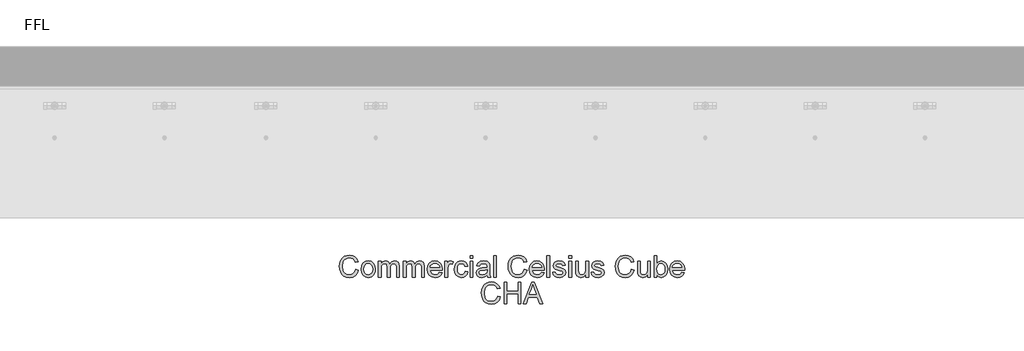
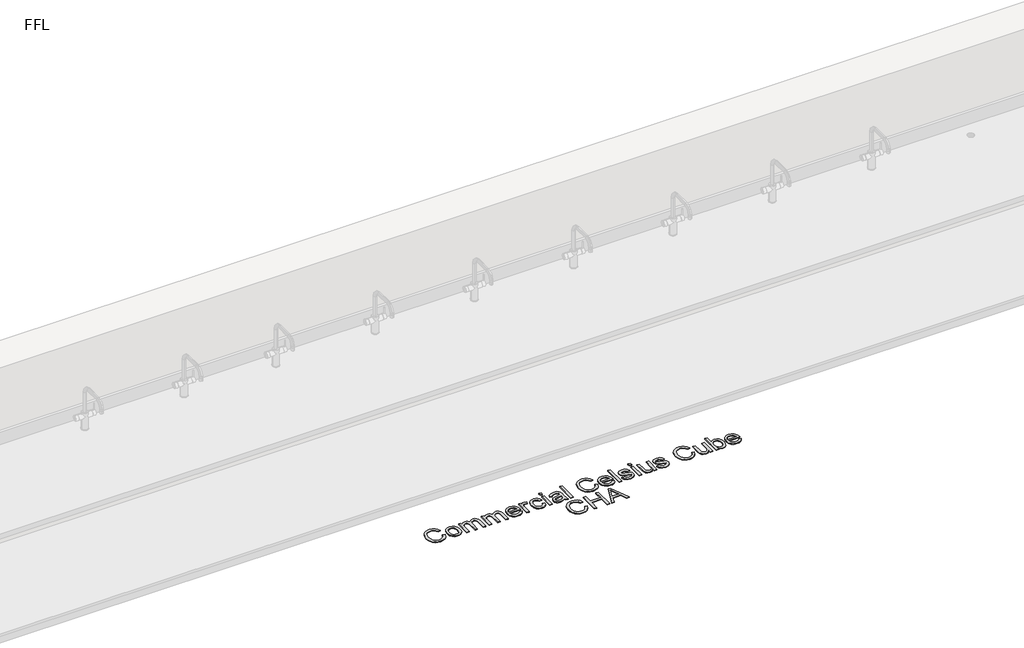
# One storey, part 5 of 10: 1 proxy.
"""IFC4 building model written with IfcOpenShell, lengths in millimetres."""

from ifc_helpers import new_model, si_unit, origin, origin_with_axes, place, context, project, spatial, polyline, outline, extrude, element, save

model = new_model("IFC4")

# Units and contexts
model_context = context("Model", 3, world=origin())
ifc_project = project(units=[si_unit("LENGTHUNIT", "METRE", prefix="MILLI")], contexts=[model_context])

# Site, building, storey
site = spatial("IfcSite", under=ifc_project)
building = spatial("IfcBuilding", under=site)
storey = spatial("IfcBuildingStorey", under=building, Name="FFL", Elevation=0.0)

# Proxy
placement = place(None, origin())
element("IfcBuildingElementProxy", 1, Name="150mm Arial", ObjectType="150mm Arial", at=placement, inside=storey, context=model_context, shape_type="SweptSolid", body=[
    extrude(outline(polyline([(-3409.7352929, -1683.6981691), (-3391.2737544, -1688.4577845), (-3399.7923842, -1709.9707052), (-3413.1607736, -1725.6873518), (-3430.7208698, -1735.301234), (-3451.8146198, -1738.5058614), (-3473.2283818, -1736.0809816), (-3490.2340909, -1728.8063422), (-3503.2689467, -1716.934347), (-3512.7701486, -1700.7173999), (-3518.5709299, -1681.6518951), (-3520.5045236, -1661.2342268), (-3518.318526, -1639.6987701), (-3511.7605333, -1621.1020153), (-3501.1730934, -1606.0344071), (-3486.8987544, -1595.0863903), (-3469.9696679, -1588.4202244), (-3451.4179852, -1586.1981691), (-3431.1760982, -1589.0737701), (-3414.4408217, -1597.700573), (-3401.7349924, -1611.5467268), (-3393.5814467, -1630.0803807), (-3412.0429852, -1634.4794191), (-3418.4432256, -1621.0163783), (-3427.1872159, -1611.7811018), (-3438.3831294, -1606.4400561), (-3452.139139, -1604.6597076), (-3467.9955092, -1606.6338662), (-3481.0213506, -1612.5563422), (-3490.9056655, -1621.8051403), (-3497.3374563, -1633.7582653), (-3502.0429852, -1661.1981691), (-3496.4720717, -1693.0010537), (-3489.3506775, -1704.8775561), (-3479.1283217, -1713.3195633), (-3466.8732135, -1718.3631331), (-3453.6535621, -1720.044323), (-3438.2434059, -1717.7546595), (-3425.4023602, -1710.8856691), (-3415.7073482, -1699.5094672), (-3409.7352929, -1683.6981691)])), origin_with_axes(), (0.0, 0.0, 1.0), 5.0),
    extrude(outline(polyline([(-3372.8122159, -1681.9673999), (-3368.8188265, -1655.8165585), (-3356.8386583, -1637.4361499), (-3342.0369756, -1628.4307412), (-3324.3146198, -1625.4289383), (-3304.9200885, -1629.0842869), (-3289.4288025, -1640.0503326), (-3279.2740549, -1657.4616908), (-3275.889139, -1680.4529768), (-3277.3855333, -1699.1038182), (-3281.8747159, -1713.3015345), (-3289.225978, -1723.9340465), (-3299.3086102, -1731.8892749), (-3311.2842712, -1736.8517148), (-3324.3146198, -1738.5058614), (-3343.943526, -1734.8640345), (-3359.4167833, -1723.9385537), (-3369.4633578, -1706.1621114), (-3372.8122159, -1681.9673999)]), holes=[polyline([(-3354.3506775, -1681.9313422), (-3352.2142592, -1698.6395754), (-3345.8050044, -1710.543121), (-3336.1595717, -1717.6690225), (-3324.3146198, -1720.044323), (-3312.5237544, -1717.6555008), (-3302.8963506, -1710.4890345), (-3296.4870958, -1698.4277364), (-3294.3506775, -1681.3544191), (-3296.5006174, -1665.1329648), (-3302.9504371, -1653.3916787), (-3312.5913626, -1646.2657773), (-3324.3146198, -1643.8904768), (-3336.1595717, -1646.2567629), (-3345.8050044, -1653.355621), (-3352.2142592, -1665.2321234), (-3354.3506775, -1681.9313422)])]), origin_with_axes(), (0.0, 0.0, 1.0), 5.0),
    extrude(outline(polyline([(-3255.1199083, -1736.1981691), (-3255.1199083, -1627.7366307), (-3236.6583698, -1627.7366307), (-3236.6583698, -1645.5851883), (-3223.9660621, -1630.9637941), (-3205.9011583, -1625.4289383), (-3195.6337304, -1626.8396956), (-3187.4035621, -1631.0719672), (-3177.2352929, -1646.8832653), (-3162.8302448, -1630.7925201), (-3144.639139, -1625.4289383), (-3130.7614347, -1627.6600081), (-3120.498514, -1634.3532172), (-3114.1568674, -1645.6888542), (-3112.0429852, -1661.8472076), (-3112.0429852, -1736.1981691), (-3130.5045236, -1736.1981691), (-3130.5045236, -1669.7798999), (-3132.217264, -1654.3652364), (-3138.4191871, -1646.7750922), (-3148.9660621, -1643.8904768), (-3158.9675645, -1645.7384335), (-3167.1211102, -1651.2823037), (-3172.5432857, -1660.9006932), (-3174.3506775, -1674.9722076), (-3174.3506775, -1736.1981691), (-3192.8122159, -1736.1981691), (-3192.8122159, -1667.7246114), (-3197.0850525, -1649.839996), (-3202.7235741, -1645.3778566), (-3211.0934659, -1643.8904768), (-3224.7593313, -1647.856823), (-3233.8458698, -1659.4673999), (-3236.6583698, -1681.4986499), (-3236.6583698, -1736.1981691), (-3255.1199083, -1736.1981691)])), origin_with_axes(), (0.0, 0.0, 1.0), 5.0),
    extrude(outline(polyline([(-3084.3506775, -1736.1981691), (-3084.3506775, -1627.7366307), (-3065.889139, -1627.7366307), (-3065.889139, -1645.5851883), (-3053.1968313, -1630.9637941), (-3035.1319275, -1625.4289383), (-3024.8644996, -1626.8396956), (-3016.6343313, -1631.0719672), (-3006.4660621, -1646.8832653), (-2992.061014, -1630.7925201), (-2973.8699083, -1625.4289383), (-2959.9922039, -1627.6600081), (-2949.7292833, -1634.3532172), (-2943.3876366, -1645.6888542), (-2941.2737544, -1661.8472076), (-2941.2737544, -1736.1981691), (-2959.7352929, -1736.1981691), (-2959.7352929, -1669.7798999), (-2961.4480333, -1654.3652364), (-2967.6499563, -1646.7750922), (-2978.1968313, -1643.8904768), (-2988.1983337, -1645.7384335), (-2996.3518794, -1651.2823037), (-3001.7740549, -1660.9006932), (-3003.5814467, -1674.9722076), (-3003.5814467, -1736.1981691), (-3022.0429852, -1736.1981691), (-3022.0429852, -1667.7246114), (-3026.3158217, -1649.839996), (-3031.9543434, -1645.3778566), (-3040.3242352, -1643.8904768), (-3053.9901006, -1647.856823), (-3063.076639, -1659.4673999), (-3065.889139, -1681.4986499), (-3065.889139, -1736.1981691), (-3084.3506775, -1736.1981691)])), origin_with_axes(), (0.0, 0.0, 1.0), 5.0),
    extrude(outline(polyline([(-2837.6439467, -1703.8904768), (-2819.5429852, -1706.1981691), (-2826.0649203, -1719.8369912), (-2836.4720717, -1730.0323037), (-2850.5300645, -1736.387472), (-2868.0045236, -1738.5058614), (-2889.6661823, -1734.8505129), (-2906.3338506, -1723.8844672), (-2916.9618554, -1706.3198638), (-2920.5045236, -1682.8688422), (-2916.9257977, -1658.6290585), (-2906.1896198, -1640.5010537), (-2889.7473121, -1629.1969672), (-2869.0501967, -1625.4289383), (-2848.9976126, -1629.1879528), (-2832.9744756, -1640.464996), (-2822.4681655, -1658.5569432), (-2818.9660621, -1682.7606691), (-2819.0742352, -1687.7366307), (-2902.0429852, -1687.7366307), (-2898.8473722, -1701.5557412), (-2891.4239948, -1711.714996), (-2880.710353, -1717.9619912), (-2867.6439467, -1720.044323), (-2849.5429852, -1716.1861499), (-2837.6439467, -1703.8904768)]), holes=[polyline([(-2902.0429852, -1669.2750922), (-2837.4276006, -1669.2750922), (-2839.9245958, -1659.5214864), (-2844.8194275, -1652.544323), (-2855.5826486, -1646.0539383), (-2869.1223121, -1643.8904768), (-2881.5667232, -1645.6167388), (-2891.8566871, -1650.7955249), (-2899.0096318, -1658.8679408), (-2902.0429852, -1669.2750922)])]), origin_with_axes(), (0.0, 0.0, 1.0), 5.0),
    extrude(outline(polyline([(-2800.5045236, -1736.1981691), (-2800.5045236, -1627.7366307), (-2784.3506775, -1627.7366307), (-2784.3506775, -1643.7823037), (-2772.8843313, -1628.9986499), (-2761.3458698, -1625.4289383), (-2742.8122159, -1631.1260537), (-2748.9780813, -1647.6765345), (-2761.9588506, -1643.8904768), (-2772.3975525, -1647.5323037), (-2779.0501967, -1657.6284576), (-2782.0429852, -1679.1909576), (-2782.0429852, -1736.1981691), (-2800.5045236, -1736.1981691)])), origin_with_axes(), (0.0, 0.0, 1.0), 5.0),
    extrude(outline(polyline([(-2662.0429852, -1696.9673999), (-2643.5814467, -1699.2750922), (-2648.7286823, -1715.6948638), (-2658.4011583, -1728.1032172), (-2671.6884179, -1735.9052004), (-2687.6800044, -1738.5058614), (-2707.3179251, -1734.8775561), (-2722.6739948, -1723.9926403), (-2732.585353, -1706.3288783), (-2735.889139, -1682.3640345), (-2730.2461102, -1651.6969672), (-2723.1247159, -1640.1990706), (-2713.0465909, -1631.9914383), (-2700.9898001, -1627.0695633), (-2687.9324083, -1625.4289383), (-2672.3329491, -1627.6825441), (-2659.8614948, -1634.4433614), (-2650.9146799, -1645.3508133), (-2645.889139, -1660.044323), (-2664.3506775, -1662.3520153), (-2672.9143794, -1648.5238903), (-2687.7881775, -1643.8904768), (-2699.7187664, -1646.1711258), (-2709.1884179, -1653.013073), (-2715.3678049, -1664.7859095), (-2717.4276006, -1681.8592268), (-2715.412877, -1699.1624119), (-2709.3687063, -1710.9758133), (-2700.0703289, -1717.7771956), (-2688.2929852, -1720.044323), (-2678.7331895, -1718.6290585), (-2670.8951486, -1714.3832653), (-2665.193526, -1707.1987701), (-2662.0429852, -1696.9673999)])), origin_with_axes(), (0.0, 0.0, 1.0), 5.0),
    extrude(outline(polyline([(-2627.4276006, -1606.9673999), (-2627.4276006, -1588.5058614), (-2608.9660621, -1588.5058614), (-2608.9660621, -1606.9673999), (-2627.4276006, -1606.9673999)])), origin_with_axes(), (0.0, 0.0, 1.0), 5.0),
    extrude(outline(polyline([(-2627.4276006, -1736.1981691), (-2627.4276006, -1627.7366307), (-2608.9660621, -1627.7366307), (-2608.9660621, -1736.1981691), (-2627.4276006, -1736.1981691)])), origin_with_axes(), (0.0, 0.0, 1.0), 5.0),
    extrude(outline(polyline([(-2512.0429852, -1722.3520153), (-2529.9456294, -1734.8640345), (-2549.7232736, -1738.5058614), (-2565.1514587, -1736.3153566), (-2576.5321679, -1729.7438422), (-2583.5498962, -1719.7648758), (-2585.889139, -1707.3520153), (-2582.3554852, -1692.7486499), (-2573.0706294, -1682.1476883), (-2560.1439467, -1676.089996), (-2544.170389, -1673.3135537), (-2512.1511583, -1666.9673999), (-2512.0429852, -1662.856823), (-2513.3140188, -1654.6176403), (-2517.1271198, -1649.2270153), (-2525.654764, -1645.2246114), (-2537.5357736, -1643.8904768), (-2556.2136583, -1647.4421595), (-2565.1199083, -1660.044323), (-2583.5814467, -1657.7366307), (-2575.5946679, -1639.7077845), (-2559.5129371, -1629.1428807), (-2535.1559659, -1625.4289383), (-2512.7821679, -1628.7101883), (-2500.1439467, -1636.949371), (-2494.482889, -1649.4794191), (-2493.5814467, -1665.6332653), (-2493.5814467, -1688.6020153), (-2492.6439467, -1720.6753326), (-2488.9660621, -1736.1981691), (-2507.4276006, -1736.1981691), (-2512.0429852, -1722.3520153)]), holes=[polyline([(-2512.0429852, -1685.4289383), (-2541.826639, -1691.089996), (-2557.7100525, -1694.0827845), (-2564.9035621, -1698.950573), (-2567.4276006, -1706.0539383), (-2561.9288025, -1716.0419191), (-2545.7929852, -1720.044323), (-2527.1151006, -1715.6272557), (-2515.0718313, -1704.9361499), (-2512.1511583, -1690.6573037), (-2512.0429852, -1685.4289383)])]), origin_with_axes(), (0.0, 0.0, 1.0), 5.0),
    extrude(outline(polyline([(-2468.1968313, -1736.1981691), (-2468.1968313, -1588.5058614), (-2449.7352929, -1588.5058614), (-2449.7352929, -1736.1981691), (-2468.1968313, -1736.1981691)])), origin_with_axes(), (0.0, 0.0, 1.0), 5.0),
    extrude(outline(polyline([(-2258.1968313, -1683.6981691), (-2239.7352929, -1688.4577845), (-2248.2539227, -1709.9707052), (-2261.6223121, -1725.6873518), (-2279.1824083, -1735.301234), (-2300.2761583, -1738.5058614), (-2321.6899203, -1736.0809816), (-2338.6956294, -1728.8063422), (-2351.7304852, -1716.934347), (-2361.2316871, -1700.7173999), (-2367.0324684, -1681.6518951), (-2368.9660621, -1661.2342268), (-2366.7800645, -1639.6987701), (-2360.2220717, -1621.1020153), (-2349.6346318, -1606.0344071), (-2335.3602929, -1595.0863903), (-2318.4312063, -1588.4202244), (-2299.8795236, -1586.1981691), (-2279.6376366, -1589.0737701), (-2262.9023602, -1597.700573), (-2250.1965309, -1611.5467268), (-2242.0429852, -1630.0803807), (-2260.5045236, -1634.4794191), (-2266.904764, -1621.0163783), (-2275.6487544, -1611.7811018), (-2286.8446679, -1606.4400561), (-2300.6006775, -1604.6597076), (-2316.4570477, -1606.6338662), (-2329.482889, -1612.5563422), (-2339.3672039, -1621.8051403), (-2345.7989948, -1633.7582653), (-2350.5045236, -1661.1981691), (-2344.9336102, -1693.0010537), (-2337.8122159, -1704.8775561), (-2327.5898602, -1713.3195633), (-2315.334752, -1718.3631331), (-2302.1151006, -1720.044323), (-2286.7049443, -1717.7546595), (-2273.8638986, -1710.8856691), (-2264.1688866, -1699.5094672), (-2258.1968313, -1683.6981691)])), origin_with_axes(), (0.0, 0.0, 1.0), 5.0),
    extrude(outline(polyline([(-2140.7208698, -1703.8904768), (-2122.6199083, -1706.1981691), (-2129.1418434, -1719.8369912), (-2139.5489948, -1730.0323037), (-2153.6069876, -1736.387472), (-2171.0814467, -1738.5058614), (-2192.7431054, -1734.8505129), (-2209.4107736, -1723.8844672), (-2220.0387784, -1706.3198638), (-2223.5814467, -1682.8688422), (-2220.0027208, -1658.6290585), (-2209.2665429, -1640.5010537), (-2192.8242352, -1629.1969672), (-2172.1271198, -1625.4289383), (-2152.0745357, -1629.1879528), (-2136.0513986, -1640.464996), (-2125.5450885, -1658.5569432), (-2122.0429852, -1682.7606691), (-2122.1511583, -1687.7366307), (-2205.1199083, -1687.7366307), (-2201.9242953, -1701.5557412), (-2194.5009179, -1711.714996), (-2183.787276, -1717.9619912), (-2170.7208698, -1720.044323), (-2152.6199083, -1716.1861499), (-2140.7208698, -1703.8904768)]), holes=[polyline([(-2205.1199083, -1669.2750922), (-2140.5045236, -1669.2750922), (-2143.0015188, -1659.5214864), (-2147.8963506, -1652.544323), (-2158.6595717, -1646.0539383), (-2172.1992352, -1643.8904768), (-2184.6436462, -1645.6167388), (-2194.9336102, -1650.7955249), (-2202.0865549, -1658.8679408), (-2205.1199083, -1669.2750922)])]), origin_with_axes(), (0.0, 0.0, 1.0), 5.0),
    extrude(outline(polyline([(-2103.5814467, -1736.1981691), (-2103.5814467, -1588.5058614), (-2085.1199083, -1588.5058614), (-2085.1199083, -1736.1981691), (-2103.5814467, -1736.1981691)])), origin_with_axes(), (0.0, 0.0, 1.0), 5.0),
    extrude(outline(polyline([(-2064.3506775, -1703.8904768), (-2045.889139, -1701.5827845), (-2042.9774804, -1709.4794191), (-2037.3434659, -1715.2847076), (-2017.764139, -1720.044323), (-1998.9420236, -1715.6813422), (-1992.8122159, -1705.4409576), (-1998.9780813, -1697.1476883), (-2017.9804852, -1691.8832653), (-2045.7809659, -1682.8508133), (-2057.9143794, -1672.3039383), (-2062.0429852, -1657.4121114), (-2058.7256775, -1643.6561018), (-2049.6751967, -1633.1452845), (-2037.9384179, -1627.6825441), (-2022.0550044, -1625.4289383), (-1999.5910621, -1629.0527364), (-1985.3122159, -1638.8604287), (-1978.9660621, -1655.4289383), (-1997.4276006, -1657.7366307), (-2004.3687063, -1647.5503326), (-2020.6126967, -1643.8904768), (-2038.2809659, -1647.388073), (-2043.5814467, -1655.5371114), (-2041.3819275, -1660.9097076), (-2034.4949083, -1664.9842268), (-2018.5934659, -1668.9145153), (-1991.4961102, -1677.6044191), (-1978.9119756, -1687.4481691), (-1974.3506775, -1703.4938422), (-1979.7052448, -1721.1621114), (-1995.1559659, -1733.980621), (-2018.0165429, -1738.5058614), (-2036.6313265, -1736.324371), (-2050.2160621, -1729.7798999), (-2059.2845717, -1718.9445633), (-2064.3506775, -1703.8904768)])), origin_with_axes(), (0.0, 0.0, 1.0), 5.0),
    extrude(outline(polyline([(-1953.5814467, -1736.1981691), (-1953.5814467, -1627.7366307), (-1935.1199083, -1627.7366307), (-1935.1199083, -1736.1981691), (-1953.5814467, -1736.1981691)])), origin_with_axes(), (0.0, 0.0, 1.0), 5.0),
    extrude(outline(polyline([(-1953.5814467, -1606.9673999), (-1953.5814467, -1588.5058614), (-1935.1199083, -1588.5058614), (-1935.1199083, -1606.9673999), (-1953.5814467, -1606.9673999)])), origin_with_axes(), (0.0, 0.0, 1.0), 5.0),
    extrude(outline(polyline([(-1838.1968313, -1736.1981691), (-1838.1968313, -1717.5563422), (-1852.6559659, -1733.2684816), (-1871.514139, -1738.5058614), (-1888.8759179, -1734.8279768), (-1900.8470717, -1725.5972076), (-1906.3458698, -1712.0034576), (-1907.4276006, -1694.839996), (-1907.4276006, -1627.7366307), (-1888.9660621, -1627.7366307), (-1888.9660621, -1686.1500922), (-1887.8482736, -1704.9722076), (-1880.5465909, -1716.0238903), (-1866.7905813, -1720.044323), (-1851.3759179, -1715.933746), (-1841.1896198, -1704.7378326), (-1838.1968313, -1684.1669191), (-1838.1968313, -1627.7366307), (-1819.7352929, -1627.7366307), (-1819.7352929, -1736.1981691), (-1838.1968313, -1736.1981691)])), origin_with_axes(), (0.0, 0.0, 1.0), 5.0),
    extrude(outline(polyline([(-1801.2737544, -1703.8904768), (-1782.8122159, -1701.5827845), (-1779.9005573, -1709.4794191), (-1774.2665429, -1715.2847076), (-1754.6872159, -1720.044323), (-1735.8651006, -1715.6813422), (-1729.7352929, -1705.4409576), (-1735.9011583, -1697.1476883), (-1754.9035621, -1691.8832653), (-1782.7040429, -1682.8508133), (-1794.8374563, -1672.3039383), (-1798.9660621, -1657.4121114), (-1795.6487544, -1643.6561018), (-1786.5982736, -1633.1452845), (-1774.8614948, -1627.6825441), (-1758.9780813, -1625.4289383), (-1736.514139, -1629.0527364), (-1722.2352929, -1638.8604287), (-1715.889139, -1655.4289383), (-1734.3506775, -1657.7366307), (-1741.2917833, -1647.5503326), (-1757.5357736, -1643.8904768), (-1775.2040429, -1647.388073), (-1780.5045236, -1655.5371114), (-1778.3050044, -1660.9097076), (-1771.4179852, -1664.9842268), (-1755.5165429, -1668.9145153), (-1728.4191871, -1677.6044191), (-1715.8350525, -1687.4481691), (-1711.2737544, -1703.4938422), (-1716.6283217, -1721.1621114), (-1732.0790429, -1733.980621), (-1754.9396198, -1738.5058614), (-1773.5544034, -1736.324371), (-1787.139139, -1729.7798999), (-1796.2076486, -1718.9445633), (-1801.2737544, -1703.8904768)])), origin_with_axes(), (0.0, 0.0, 1.0), 5.0),
    extrude(outline(polyline([(-1526.6583698, -1683.6981691), (-1508.1968313, -1688.4577845), (-1516.7154611, -1709.9707052), (-1530.0838506, -1725.6873518), (-1547.6439467, -1735.301234), (-1568.7376967, -1738.5058614), (-1590.1514587, -1736.0809816), (-1607.1571679, -1728.8063422), (-1620.1920236, -1716.934347), (-1629.6932256, -1700.7173999), (-1635.4940068, -1681.6518951), (-1637.4276006, -1661.2342268), (-1635.241603, -1639.6987701), (-1628.6836102, -1621.1020153), (-1618.0961703, -1606.0344071), (-1603.8218313, -1595.0863903), (-1586.8927448, -1588.4202244), (-1568.3410621, -1586.1981691), (-1548.0991751, -1589.0737701), (-1531.3638986, -1597.700573), (-1518.6580693, -1611.5467268), (-1510.5045236, -1630.0803807), (-1528.9660621, -1634.4794191), (-1535.3663025, -1621.0163783), (-1544.1102929, -1611.7811018), (-1555.3062063, -1606.4400561), (-1569.0622159, -1604.6597076), (-1584.9185861, -1606.6338662), (-1597.9444275, -1612.5563422), (-1607.8287424, -1621.8051403), (-1614.2605333, -1633.7582653), (-1618.9660621, -1661.1981691), (-1613.3951486, -1693.0010537), (-1606.2737544, -1704.8775561), (-1596.0513986, -1713.3195633), (-1583.7962905, -1718.3631331), (-1570.576639, -1720.044323), (-1555.1664828, -1717.7546595), (-1542.3254371, -1710.8856691), (-1532.6304251, -1699.5094672), (-1526.6583698, -1683.6981691)])), origin_with_axes(), (0.0, 0.0, 1.0), 5.0),
    extrude(outline(polyline([(-1415.889139, -1736.1981691), (-1415.889139, -1717.5563422), (-1430.3482736, -1733.2684816), (-1449.2064467, -1738.5058614), (-1466.5682256, -1734.8279768), (-1478.5393794, -1725.5972076), (-1484.0381775, -1712.0034576), (-1485.1199083, -1694.839996), (-1485.1199083, -1627.7366307), (-1466.6583698, -1627.7366307), (-1466.6583698, -1686.1500922), (-1465.5405813, -1704.9722076), (-1458.2388986, -1716.0238903), (-1444.482889, -1720.044323), (-1429.0682256, -1715.933746), (-1418.8819275, -1704.7378326), (-1415.889139, -1684.1669191), (-1415.889139, -1627.7366307), (-1397.4276006, -1627.7366307), (-1397.4276006, -1736.1981691), (-1415.889139, -1736.1981691)])), origin_with_axes(), (0.0, 0.0, 1.0), 5.0),
    extrude(outline(polyline([(-1353.5814467, -1736.1981691), (-1372.0429852, -1736.1981691), (-1372.0429852, -1588.5058614), (-1353.5814467, -1588.5058614), (-1353.5814467, -1643.277496), (-1340.654764, -1629.8910778), (-1324.5910621, -1625.4289383), (-1306.0934659, -1629.449371), (-1291.7425044, -1640.7534576), (-1282.9263986, -1658.3315826), (-1279.7352929, -1680.3448037), (-1283.0390789, -1704.9902364), (-1292.9504371, -1723.325573), (-1307.4952087, -1734.7107893), (-1324.6992352, -1738.5058614), (-1341.1144996, -1733.6110297), (-1353.5814467, -1718.9265345), (-1353.5814467, -1736.1981691)]), holes=[polyline([(-1353.5814467, -1681.2101883), (-1352.3194275, -1696.606823), (-1348.5333698, -1707.027496), (-1338.8608938, -1716.7901162), (-1326.2857736, -1720.044323), (-1315.6307256, -1717.6464864), (-1306.5261583, -1710.4529768), (-1300.2791631, -1698.5088662), (-1298.1968313, -1681.8592268), (-1300.193526, -1664.966198), (-1306.1836102, -1653.1573037), (-1315.0042232, -1646.2071835), (-1325.4925044, -1643.8904768), (-1336.1475525, -1646.2883133), (-1345.2521198, -1653.481823), (-1351.499115, -1665.2095874), (-1353.5814467, -1681.2101883)])]), origin_with_axes(), (0.0, 0.0, 1.0), 5.0),
    extrude(outline(polyline([(-1183.0285621, -1703.8904768), (-1164.9276006, -1706.1981691), (-1171.4495357, -1719.8369912), (-1181.8566871, -1730.0323037), (-1195.9146799, -1736.387472), (-1213.389139, -1738.5058614), (-1235.0507977, -1734.8505129), (-1251.7184659, -1723.8844672), (-1262.3464708, -1706.3198638), (-1265.889139, -1682.8688422), (-1262.3104131, -1658.6290585), (-1251.5742352, -1640.5010537), (-1235.1319275, -1629.1969672), (-1214.4348121, -1625.4289383), (-1194.382228, -1629.1879528), (-1178.3590909, -1640.464996), (-1167.8527809, -1658.5569432), (-1164.3506775, -1682.7606691), (-1164.4588506, -1687.7366307), (-1247.4276006, -1687.7366307), (-1244.2319876, -1701.5557412), (-1236.8086102, -1711.714996), (-1226.0949684, -1717.9619912), (-1213.0285621, -1720.044323), (-1194.9276006, -1716.1861499), (-1183.0285621, -1703.8904768)]), holes=[polyline([(-1247.4276006, -1669.2750922), (-1182.8122159, -1669.2750922), (-1185.3092111, -1659.5214864), (-1190.2040429, -1652.544323), (-1200.967264, -1646.0539383), (-1214.5069275, -1643.8904768), (-1226.9513385, -1645.6167388), (-1237.2413025, -1650.7955249), (-1244.3942472, -1658.8679408), (-1247.4276006, -1669.2750922)])]), origin_with_axes(), (0.0, 0.0, 1.0), 5.0),
    extrude(outline(polyline([(-2440.5045236, -1866.0058614), (-2422.0429852, -1870.7654768), (-2430.561615, -1892.2783975), (-2443.9300044, -1907.9950441), (-2461.4901006, -1917.6089263), (-2482.5838506, -1920.8135537), (-2503.9976126, -1918.3886739), (-2521.0033217, -1911.1140345), (-2534.0381775, -1899.2420393), (-2543.5393794, -1883.0250922), (-2549.3401607, -1863.9595874), (-2551.2737544, -1843.5419191), (-2549.0877568, -1822.0064624), (-2542.529764, -1803.4097076), (-2531.9423241, -1788.3420994), (-2517.6679852, -1777.3940826), (-2500.7388986, -1770.7279167), (-2482.1872159, -1768.5058614), (-2461.9453289, -1771.3814624), (-2445.2100525, -1780.0082653), (-2432.5042232, -1793.8544191), (-2424.3506775, -1812.388073), (-2442.8122159, -1816.7871114), (-2449.2124563, -1803.3240706), (-2457.9564467, -1794.0887941), (-2469.1523602, -1788.7477484), (-2482.9083698, -1786.9673999), (-2498.76474, -1788.9415585), (-2511.7905813, -1794.8640345), (-2521.6748962, -1804.1128326), (-2528.1066871, -1816.0659576), (-2532.8122159, -1843.5058614), (-2527.2413025, -1875.308746), (-2520.1199083, -1887.1852484), (-2509.8975525, -1895.6272557), (-2497.6424443, -1900.6708254), (-2484.4227929, -1902.3520153), (-2469.0126366, -1900.0623518), (-2456.1715909, -1893.1933614), (-2446.4765789, -1881.8171595), (-2440.5045236, -1866.0058614)])), origin_with_axes(), (0.0, 0.0, 1.0), 5.0),
    extrude(outline(polyline([(-2396.6583698, -1918.5058614), (-2396.6583698, -1770.8135537), (-2378.1968313, -1770.8135537), (-2378.1968313, -1830.8135537), (-2299.7352929, -1830.8135537), (-2299.7352929, -1770.8135537), (-2281.2737544, -1770.8135537), (-2281.2737544, -1918.5058614), (-2299.7352929, -1918.5058614), (-2299.7352929, -1849.2750922), (-2378.1968313, -1849.2750922), (-2378.1968313, -1918.5058614), (-2396.6583698, -1918.5058614)])), origin_with_axes(), (0.0, 0.0, 1.0), 5.0),
    extrude(outline(polyline([(-2266.1655813, -1918.5058614), (-2207.2112544, -1770.8135537), (-2191.4901006, -1770.8135537), (-2132.5357736, -1918.5058614), (-2152.0429852, -1918.5058614), (-2168.9540429, -1872.3520153), (-2229.7833698, -1872.3520153), (-2246.6583698, -1918.5058614), (-2266.1655813, -1918.5058614)]), holes=[polyline([(-2223.0045236, -1853.8904768), (-2175.6968313, -1853.8904768), (-2189.0021198, -1817.5803807), (-2199.3506775, -1789.2750922), (-2208.545389, -1814.4073037), (-2223.0045236, -1853.8904768)])]), origin_with_axes(), (0.0, 0.0, 1.0), 5.0),
])

save(model, "model.ifc")
